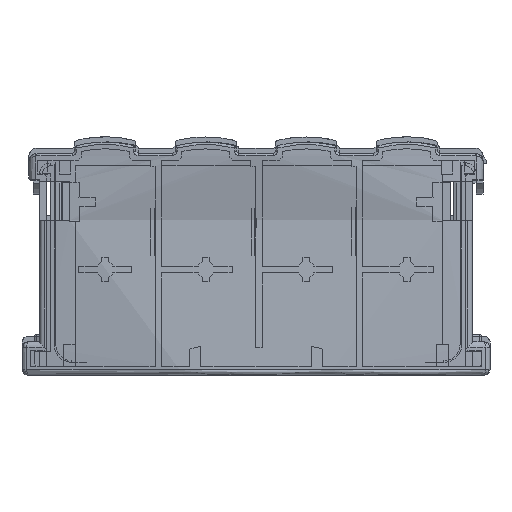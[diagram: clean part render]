
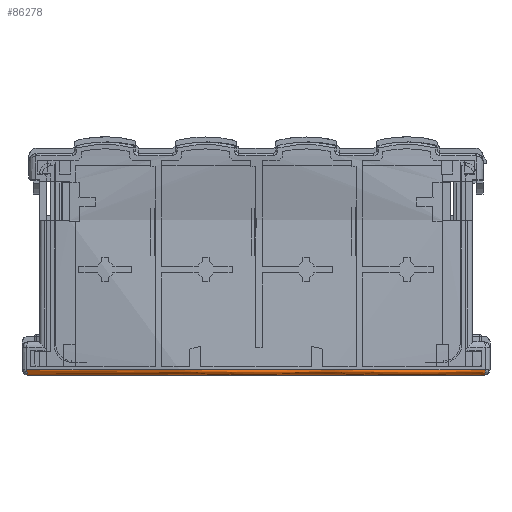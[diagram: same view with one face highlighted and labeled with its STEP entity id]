
A CAD part, front view. The second image highlights one B-rep face of the part: STEP entity #86278.
In plain terms, the highlighted free-form (B-spline) face has degree [3, 3] with [4, 4] control points.
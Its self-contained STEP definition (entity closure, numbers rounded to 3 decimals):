
#5071 = CARTESIAN_POINT ( 'NONE',  ( 41.035, -2.036, 0.414 ) ) ;
#6810 = EDGE_CURVE ( 'NONE', #81035, #43025, #26963, .T. ) ;
#9590 = CARTESIAN_POINT ( 'NONE',  ( 41.035, -2.036, 0.414 ) ) ;
#10519 = EDGE_CURVE ( 'NONE', #81035, #56076, #58838, .T. ) ;
#11776 = CARTESIAN_POINT ( 'NONE',  ( -13.744, -5.349, 0. ) ) ;
#13069 = ORIENTED_EDGE ( 'NONE', *, *, #10519, .F. ) ;
#13545 = CARTESIAN_POINT ( 'NONE',  ( -41.035, -2.036, 0.955 ) ) ;
#13694 = ORIENTED_EDGE ( 'NONE', *, *, #6810, .T. ) ;
#14553 = CARTESIAN_POINT ( 'NONE',  ( -40.971, -1.566, 0. ) ) ;
#15971 = CARTESIAN_POINT ( 'NONE',  ( 40.979, -1.626, 0. ) ) ;
#18488 = CARTESIAN_POINT ( 'NONE',  ( 40.979, -1.626, 0. ) ) ;
#20248 = CARTESIAN_POINT ( 'NONE',  ( -41.035, -2.036, 1. ) ) ;
#24889 = CARTESIAN_POINT ( 'NONE',  ( -13.763, -5.764, 1. ) ) ;
#25171 = CARTESIAN_POINT ( 'NONE',  ( -13.718, -4.761, 0. ) ) ;
#26963 =( BOUNDED_CURVE ( )  B_SPLINE_CURVE ( 3, ( #20248, #13545, #53459, #26968 ),
 .UNSPECIFIED., .F., .F. ) 
 B_SPLINE_CURVE_WITH_KNOTS ( ( 4, 4 ),
 ( 0., 0.086 ),
 .UNSPECIFIED. ) 
 CURVE ( )  GEOMETRIC_REPRESENTATION_ITEM ( )  RATIONAL_B_SPLINE_CURVE ( ( 1., 0.998, 0.998, 1. ) ) 
 REPRESENTATION_ITEM ( '' )  );
#26968 = CARTESIAN_POINT ( 'NONE',  ( -41.034, -2.027, 0.866 ) ) ;
#27027 = FACE_OUTER_BOUND ( 'NONE', #57124, .T. ) ;
#27349 = EDGE_CURVE ( 'NONE', #38327, #37527, #82923, .T. ) ;
#29339 = ORIENTED_EDGE ( 'NONE', *, *, #75369, .T. ) ;
#29516 = CARTESIAN_POINT ( 'NONE',  ( 40.9, -1.045, 0. ) ) ;
#30079 = CARTESIAN_POINT ( 'NONE',  ( -41.035, -2.036, 1. ) ) ;
#30619 = EDGE_CURVE ( 'NONE', #37527, #56076, #66786, .T. ) ;
#31101 = CARTESIAN_POINT ( 'NONE',  ( 41.035, -2.036, 1. ) ) ;
#31626 = CARTESIAN_POINT ( 'NONE',  ( 13.763, -5.764, 1. ) ) ;
#31902 = CARTESIAN_POINT ( 'NONE',  ( 40.9, -1.045, 0. ) ) ;
#37527 = VERTEX_POINT ( 'NONE', #47978 ) ;
#38178 = DIRECTION ( 'NONE',  ( 0., 0., 1. ) ) ;
#38327 = VERTEX_POINT ( 'NONE', #51341 ) ;
#38346 = CARTESIAN_POINT ( 'NONE',  ( -41.035, -2.036, 0.414 ) ) ;
#39771 = ORIENTED_EDGE ( 'NONE', *, *, #27349, .T. ) ;
#40295 =( BOUNDED_SURFACE ( )  B_SPLINE_SURFACE ( 3, 3, ( 
 ( #58120, #24889, #31626, #78282 ),
 ( #38346, #84967, #45002, #5071 ),
 ( #51689, #11776, #58417, #18488 ),
 ( #65131, #25171, #71820, #31902 ) ),
 .UNSPECIFIED., .F., .F., .T. ) 
 B_SPLINE_SURFACE_WITH_KNOTS ( ( 4, 4 ),
 ( 4, 4 ),
 ( 0., 1. ),
 ( 0., 1. ),
 .UNSPECIFIED. ) 
 GEOMETRIC_REPRESENTATION_ITEM ( )  RATIONAL_B_SPLINE_SURFACE ( (
 ( 1., 0.994, 0.994, 1.),
 ( 0.805, 0.8, 0.8, 0.805),
 ( 0.805, 0.8, 0.8, 0.805),
 ( 1., 0.994, 0.994, 1.) ) ) 
 REPRESENTATION_ITEM ( '' )  SURFACE ( )  );
#43025 = VERTEX_POINT ( 'NONE', #82500 ) ;
#45002 = CARTESIAN_POINT ( 'NONE',  ( 13.763, -5.764, 0.414 ) ) ;
#47978 = CARTESIAN_POINT ( 'NONE',  ( 40.9, -1.045, 0. ) ) ;
#51341 = CARTESIAN_POINT ( 'NONE',  ( -40.9, -1.045, 0. ) ) ;
#51689 = CARTESIAN_POINT ( 'NONE',  ( -40.979, -1.626, 0. ) ) ;
#53459 = CARTESIAN_POINT ( 'NONE',  ( -41.035, -2.033, 0.91 ) ) ;
#54169 = CARTESIAN_POINT ( 'NONE',  ( -41.025, -1.957, 0.345 ) ) ;
#56076 = VERTEX_POINT ( 'NONE', #31101 ) ;
#56201 = CARTESIAN_POINT ( 'NONE',  ( 41.035, -2.036, 1. ) ) ;
#57124 = EDGE_LOOP ( 'NONE', ( #74001, #13069, #13694, #29339, #39771 ) ) ;
#58120 = CARTESIAN_POINT ( 'NONE',  ( -41.035, -2.036, 1. ) ) ;
#58417 = CARTESIAN_POINT ( 'NONE',  ( 13.744, -5.349, 0. ) ) ;
#58838 = CIRCLE ( 'NONE', #80869, 303. ) ;
#61195 = CARTESIAN_POINT ( 'NONE',  ( -40.9, -1.045, 0. ) ) ;
#65131 = CARTESIAN_POINT ( 'NONE',  ( -40.9, -1.045, 0. ) ) ;
#66786 =( BOUNDED_CURVE ( )  B_SPLINE_CURVE ( 3, ( #82783, #15971, #9590, #56201 ),
 .UNSPECIFIED., .F., .T. ) 
 B_SPLINE_CURVE_WITH_KNOTS ( ( 4, 4 ),
 ( 0., 1. ),
 .UNSPECIFIED. ) 
 CURVE ( )  GEOMETRIC_REPRESENTATION_ITEM ( )  RATIONAL_B_SPLINE_CURVE ( ( 1., 0.805, 0.805, 1. ) ) 
 REPRESENTATION_ITEM ( '' )  );
#69470 = CARTESIAN_POINT ( 'NONE',  ( -40.9, -1.045, 0. ) ) ;
#71820 = CARTESIAN_POINT ( 'NONE',  ( 13.718, -4.761, 0. ) ) ;
#74001 = ORIENTED_EDGE ( 'NONE', *, *, #30619, .T. ) ;
#74309 = CARTESIAN_POINT ( 'NONE',  ( -41.034, -2.027, 0.866 ) ) ;
#75323 = CARTESIAN_POINT ( 'NONE',  ( -13.718, -4.761, 0. ) ) ;
#75369 = EDGE_CURVE ( 'NONE', #43025, #38327, #80151, .T. ) ;
#78129 = CARTESIAN_POINT ( 'NONE',  ( 0., 298.172, 1. ) ) ;
#78282 = CARTESIAN_POINT ( 'NONE',  ( 41.035, -2.036, 1. ) ) ;
#80151 =( BOUNDED_CURVE ( )  B_SPLINE_CURVE ( 3, ( #74309, #54169, #14553, #61195 ),
 .UNSPECIFIED., .F., .F. ) 
 B_SPLINE_CURVE_WITH_KNOTS ( ( 4, 4 ),
 ( 0.086, 1. ),
 .UNSPECIFIED. ) 
 CURVE ( )  GEOMETRIC_REPRESENTATION_ITEM ( )  RATIONAL_B_SPLINE_CURVE ( ( 1., 0.835, 0.835, 1. ) ) 
 REPRESENTATION_ITEM ( '' )  );
#80869 = AXIS2_PLACEMENT_3D ( 'NONE', #78129, #38178, #84809 ) ;
#81035 = VERTEX_POINT ( 'NONE', #30079 ) ;
#82353 = CARTESIAN_POINT ( 'NONE',  ( 13.718, -4.761, 0. ) ) ;
#82500 = CARTESIAN_POINT ( 'NONE',  ( -41.034, -2.027, 0.866 ) ) ;
#82783 = CARTESIAN_POINT ( 'NONE',  ( 40.9, -1.045, 0. ) ) ;
#82923 =( BOUNDED_CURVE ( )  B_SPLINE_CURVE ( 3, ( #69470, #75323, #82353, #29516 ),
 .UNSPECIFIED., .F., .T. ) 
 B_SPLINE_CURVE_WITH_KNOTS ( ( 4, 4 ),
 ( 0., 1. ),
 .UNSPECIFIED. ) 
 CURVE ( )  GEOMETRIC_REPRESENTATION_ITEM ( )  RATIONAL_B_SPLINE_CURVE ( ( 1., 0.994, 0.994, 1. ) ) 
 REPRESENTATION_ITEM ( '' )  );
#84809 = DIRECTION ( 'NONE',  ( 1., 0., 0. ) ) ;
#84967 = CARTESIAN_POINT ( 'NONE',  ( -13.763, -5.764, 0.414 ) ) ;
#86278 = ADVANCED_FACE ( 'NONE', ( #27027 ), #40295, .T. ) ;
